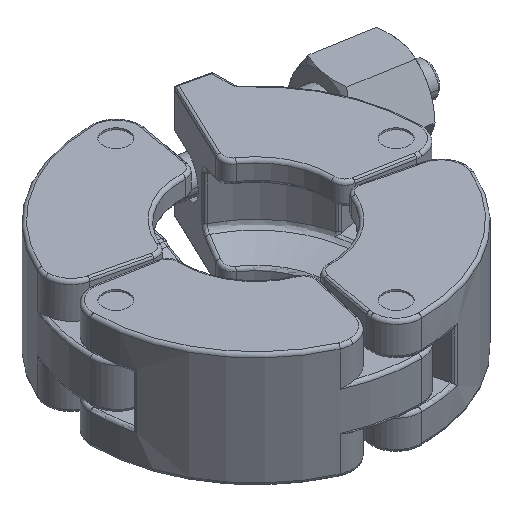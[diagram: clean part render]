
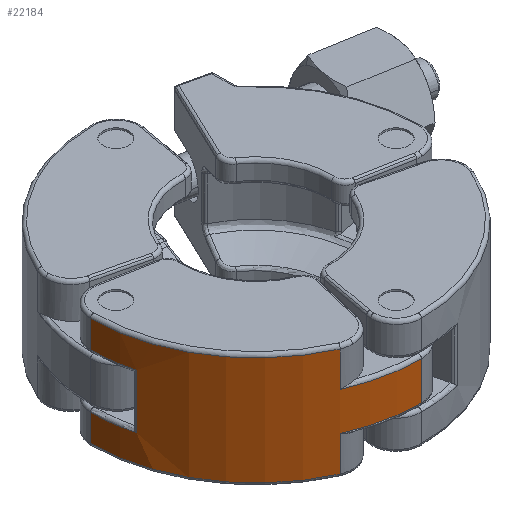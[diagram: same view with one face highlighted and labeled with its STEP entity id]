
A CAD part, isometric view. The second image highlights one B-rep face of the part: STEP entity #22184.
In plain terms, the highlighted cylindrical face has radius 26 mm (diameter 52 mm), a partial arc.
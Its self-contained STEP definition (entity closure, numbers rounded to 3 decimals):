
#1193=CARTESIAN_POINT('',(-26.,0.,8.5));
#1194=VERTEX_POINT('',#1193);
#1246=CARTESIAN_POINT('',(-10.555,-23.761,8.5));
#1247=VERTEX_POINT('',#1246);
#1464=CARTESIAN_POINT('',(-26.,0.,-8.5));
#1465=VERTEX_POINT('',#1464);
#1499=CARTESIAN_POINT('',(-10.555,-23.761,-8.5));
#1500=VERTEX_POINT('',#1499);
#1682=CARTESIAN_POINT('',(-26.,0.,-4.25));
#1683=VERTEX_POINT('',#1682);
#1865=CARTESIAN_POINT('',(-26.,0.,4.25));
#1866=VERTEX_POINT('',#1865);
#20649=CARTESIAN_POINT('',(-25.199,-6.404,4.25));
#20650=VERTEX_POINT('',#20649);
#20651=CARTESIAN_POINT('',(0.0,0.0,4.25));
#20652=DIRECTION('',(0.0,0.0,-1.0));
#20653=DIRECTION('',(-1.0,0.0,0.0));
#20654=AXIS2_PLACEMENT_3D('',#20651,#20652,#20653);
#20655=CIRCLE('',#20654,26.);
#20656=EDGE_CURVE('',#20650,#1866,#20655,.T.);
#20689=CARTESIAN_POINT('',(-25.199,-6.404,-4.25));
#20690=VERTEX_POINT('',#20689);
#20704=CARTESIAN_POINT('',(-25.199,-6.404,4.25));
#20705=DIRECTION('',(0.0,0.0,-1.0));
#20706=VECTOR('',#20705,8.5);
#20707=LINE('',#20704,#20706);
#20708=EDGE_CURVE('',#20690,#20650,#20707,.F.);
#20785=CARTESIAN_POINT('',(0.0,0.0,-4.25));
#20786=DIRECTION('',(0.0,0.0,-1.0));
#20787=DIRECTION('',(-1.0,0.0,0.0));
#20788=AXIS2_PLACEMENT_3D('',#20785,#20786,#20787);
#20789=CIRCLE('',#20788,26.);
#20790=EDGE_CURVE('',#1683,#20690,#20789,.F.);
#21559=CARTESIAN_POINT('',(-26.,0.,-4.25));
#21560=DIRECTION('',(0.0,0.0,-1.0));
#21561=VECTOR('',#21560,4.25);
#21562=LINE('',#21559,#21561);
#21563=EDGE_CURVE('',#1465,#1683,#21562,.F.);
#22113=CARTESIAN_POINT('',(0.0,0.0,0.0));
#22114=DIRECTION('',(0.0,0.0,-1.0));
#22115=DIRECTION('',(-1.0,0.0,0.0));
#22116=AXIS2_PLACEMENT_3D('',#22113,#22114,#22115);
#22117=CYLINDRICAL_SURFACE('',#22116,26.);
#22118=ORIENTED_EDGE('',*,*,#20790,.F.);
#22119=ORIENTED_EDGE('',*,*,#21563,.F.);
#22120=CARTESIAN_POINT('',(0.0,0.0,-8.5));
#22121=DIRECTION('',(0.0,0.0,-1.0));
#22122=DIRECTION('',(-1.0,0.0,0.0));
#22123=AXIS2_PLACEMENT_3D('',#22120,#22121,#22122);
#22124=CIRCLE('',#22123,26.);
#22125=EDGE_CURVE('',#1500,#1465,#22124,.T.);
#22126=ORIENTED_EDGE('',*,*,#22125,.F.);
#22127=CARTESIAN_POINT('',(-10.555,-23.761,-3.));
#22128=VERTEX_POINT('',#22127);
#22129=CARTESIAN_POINT('',(-10.555,-23.761,-3.));
#22130=DIRECTION('',(0.0,0.0,-1.0));
#22131=VECTOR('',#22130,5.5);
#22132=LINE('',#22129,#22131);
#22133=EDGE_CURVE('',#22128,#1500,#22132,.T.);
#22134=ORIENTED_EDGE('',*,*,#22133,.F.);
#22135=CARTESIAN_POINT('',(0.,-26.,-3.));
#22136=VERTEX_POINT('',#22135);
#22137=CARTESIAN_POINT('',(0.0,0.0,-3.));
#22138=DIRECTION('',(0.0,0.0,-1.0));
#22139=DIRECTION('',(-1.0,0.0,0.0));
#22140=AXIS2_PLACEMENT_3D('',#22137,#22138,#22139);
#22141=CIRCLE('',#22140,26.);
#22142=EDGE_CURVE('',#22136,#22128,#22141,.T.);
#22143=ORIENTED_EDGE('',*,*,#22142,.F.);
#22144=CARTESIAN_POINT('',(0.,-26.,3.));
#22145=VERTEX_POINT('',#22144);
#22146=CARTESIAN_POINT('',(0.,-26.,-3.));
#22147=DIRECTION('',(0.0,0.0,1.0));
#22148=VECTOR('',#22147,6.);
#22149=LINE('',#22146,#22148);
#22150=EDGE_CURVE('',#22145,#22136,#22149,.F.);
#22151=ORIENTED_EDGE('',*,*,#22150,.F.);
#22152=CARTESIAN_POINT('',(-10.555,-23.761,3.));
#22153=VERTEX_POINT('',#22152);
#22154=CARTESIAN_POINT('',(0.0,0.0,3.));
#22155=DIRECTION('',(0.0,0.0,-1.0));
#22156=DIRECTION('',(-1.0,0.0,0.0));
#22157=AXIS2_PLACEMENT_3D('',#22154,#22155,#22156);
#22158=CIRCLE('',#22157,26.);
#22159=EDGE_CURVE('',#22153,#22145,#22158,.F.);
#22160=ORIENTED_EDGE('',*,*,#22159,.F.);
#22161=CARTESIAN_POINT('',(-10.555,-23.761,8.5));
#22162=DIRECTION('',(0.0,0.0,-1.0));
#22163=VECTOR('',#22162,5.5);
#22164=LINE('',#22161,#22163);
#22165=EDGE_CURVE('',#22153,#1247,#22164,.F.);
#22166=ORIENTED_EDGE('',*,*,#22165,.T.);
#22167=CARTESIAN_POINT('',(0.0,0.0,8.5));
#22168=DIRECTION('',(0.0,0.0,-1.0));
#22169=DIRECTION('',(-1.0,0.0,0.0));
#22170=AXIS2_PLACEMENT_3D('',#22167,#22168,#22169);
#22171=CIRCLE('',#22170,26.);
#22172=EDGE_CURVE('',#1194,#1247,#22171,.F.);
#22173=ORIENTED_EDGE('',*,*,#22172,.F.);
#22174=CARTESIAN_POINT('',(-26.,0.,8.5));
#22175=DIRECTION('',(0.0,0.0,-1.0));
#22176=VECTOR('',#22175,4.25);
#22177=LINE('',#22174,#22176);
#22178=EDGE_CURVE('',#1866,#1194,#22177,.F.);
#22179=ORIENTED_EDGE('',*,*,#22178,.F.);
#22180=ORIENTED_EDGE('',*,*,#20656,.F.);
#22181=ORIENTED_EDGE('',*,*,#20708,.F.);
#22182=EDGE_LOOP('',(#22118,#22119,#22126,#22134,#22143,#22151,#22160,#22166,#22173,#22179,#22180,#22181));
#22183=FACE_OUTER_BOUND('',#22182,.T.);
#22184=ADVANCED_FACE('',(#22183),#22117,.T.);
